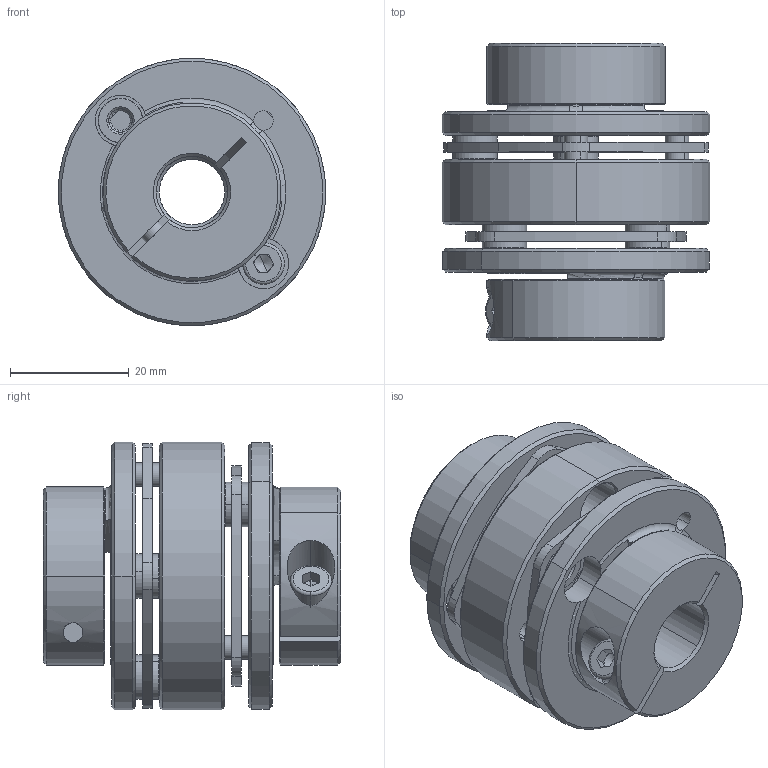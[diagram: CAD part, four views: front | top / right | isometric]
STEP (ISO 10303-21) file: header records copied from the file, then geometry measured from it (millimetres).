
FILE_DESCRIPTION (( 'STEP AP203' ), '1' );
FILE_NAME ('LE2-B-D45L50-11-12.STEP', '2021-11-01T06:49:49', ( '' ), ( '' ), 'SwSTEP 2.0', 'SolidWorks 2018', '' );
FILE_SCHEMA (( 'CONFIG_CONTROL_DESIGN' ));
Length unit declared in the file: millimetre
Products named in the file (1): LE2-B-D45L50-11-12
Bounding box: 45 x 50 x 45 mm (x, y, z)
Volume: 36697.6 mm3; surface area: 23877.2 mm2
Topology: 1 solids, 5 shells, 494 faces, 1194 edges, 732 vertices
Faces by surface type: cylinder 178, cone 154, plane 142, torus 18, bspline 2
Entity records: 14963 total; most frequent: CARTESIAN_POINT 2891, DIRECTION 2748, ORIENTED_EDGE 2364, EDGE_CURVE 1182, AXIS2_PLACEMENT_3D 1123, VERTEX_POINT 732, CIRCLE 630, EDGE_LOOP 586
